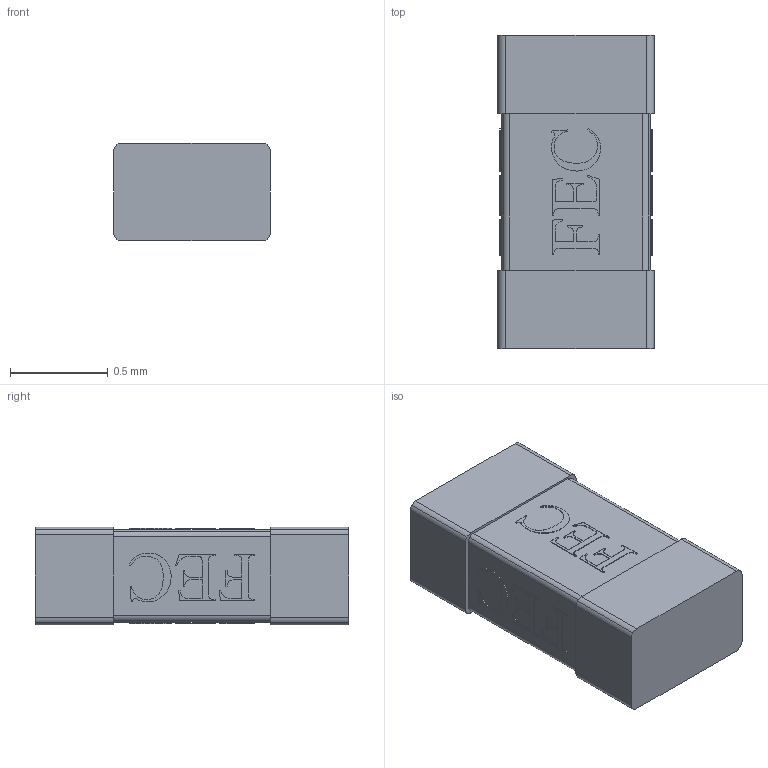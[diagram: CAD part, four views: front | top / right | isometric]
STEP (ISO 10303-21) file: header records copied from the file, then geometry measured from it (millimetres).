
FILE_DESCRIPTION(('STEP AP214'),'1');
FILE_NAME('tmp0.step','2023-08-10T00:57:43',(' '),(' '),'Spatial InterOp 3D',' ',' ');
FILE_SCHEMA(('AUTOMOTIVE_DESIGN { 1 0 10303 214 1 1 1 1 }'));
Length unit declared in the file: millimetre
Products named in the file (1): 1
Bounding box: 0.8 x 1.6 x 0.5 mm (x, y, z)
Volume: 0.6 mm3; surface area: 6.6 mm2
Topology: 15 solids, 15 shells, 1054 faces, 3072 edges, 2048 vertices
Faces by surface type: plane 1030, cylinder 24
Entity records: 34338 total; most frequent: CARTESIAN_POINT 6189, ORIENTED_EDGE 6144, DIRECTION 5258, EDGE_CURVE 3072, LINE 3024, VECTOR 3024, VERTEX_POINT 2048, AXIS2_PLACEMENT_3D 1117
